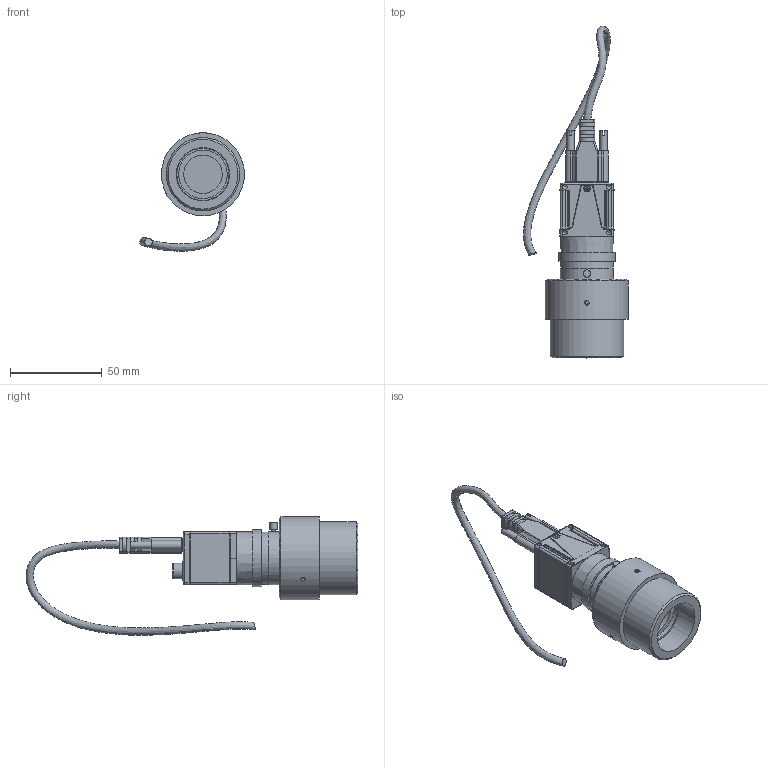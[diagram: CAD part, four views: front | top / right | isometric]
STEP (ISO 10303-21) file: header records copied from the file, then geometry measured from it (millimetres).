
FILE_DESCRIPTION(/* description */ ('OptiVID'),/* implementation_level */ '2;1');
FILE_NAME(/* name */ 'S:\Bureau-Technique\Vidéo\MA 730-001-105.stp',/* time_stamp */ '2018-04-09T16:40:34+02:00',/* author */ ('ms'),/* organization */ ('Marcel Aubert'),/* preprocessor_version */ 'ST-DEVELOPER v17',/* originating_system */ 'Autodesk Inventor 2018',/* authorisation */ '');
FILE_SCHEMA (('AUTOMOTIVE_DESIGN { 1 0 10303 214 3 1 1 }'));
Length unit declared in the file: millimetre
Products named in the file (14): MA 730-001-105; CAM-120-284; MA 726-001-105; MA 726-001-000; MA 726-001-000-100; MA 726-001-000-101; MA 726-006-000-102; 88-057-12; ISO 4026 - M3 x 8; ISO 4026 - M2 x 3; 66-049; CAB-156-030; CNT-052-03; CAB-083(b)
Assembly tree (15 placements, depth 4):
  MA 730-001-105
    CAM-120-284
    MA 726-001-105
      MA 726-001-000
        MA 726-001-000-100
        MA 726-001-000-101
        MA 726-006-000-102
      88-057-12
      ISO 4026 - M3 x 8  x3
      ISO 4026 - M2 x 3
      66-049
    CAB-156-030
      CNT-052-03
      CAB-083(b)
Bounding box: 57.25 x 181.09 x 64.62 mm (x, y, z)
Volume: 86235 mm3; surface area: 38710.6 mm2
Topology: 19 solids, 19 shells, 912 faces, 2419 edges, 1603 vertices
Faces by surface type: plane 557, cylinder 238, cone 53, bspline 35, torus 27, sphere 2
Full cylindrical faces by diameter (mm): 0.4 x8, 1.567 x2, 1.6 x2, 2 x4, 2.459 x3, 2.5 x4, 3 x5, 3.2 x1, 3.9 x2, 4 x1, 6.8 x1, 8.5 x1, 8.6 x3, 10 x1, 10.6 x1, 21 x1, 22.5 x3, 22.7 x1, 23.5 x1, 24.2 x1, 24.4 x1, 24.8 x1, 25.4 x2, 26 x1, 26.5 x1, 28.3 x1, 28.5 x1, 28.6 x1, 29 x2, 29.1 x1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
Entity records: 42499 total; most frequent: CARTESIAN_POINT 19228, DIRECTION 4718, ORIENTED_EDGE 4696, EDGE_CURVE 2348, AXIS2_PLACEMENT_3D 1609, VERTEX_POINT 1563, LINE 1500, VECTOR 1500
